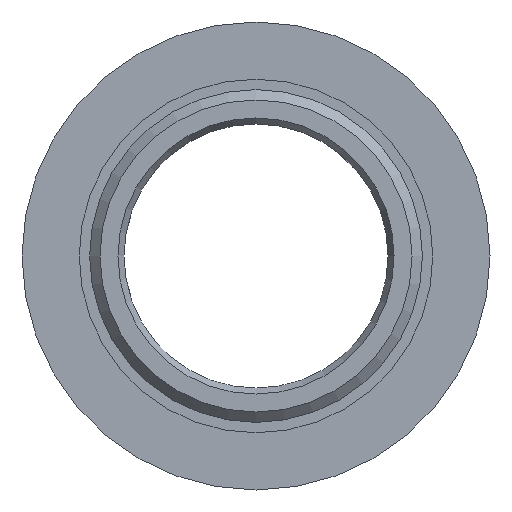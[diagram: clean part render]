
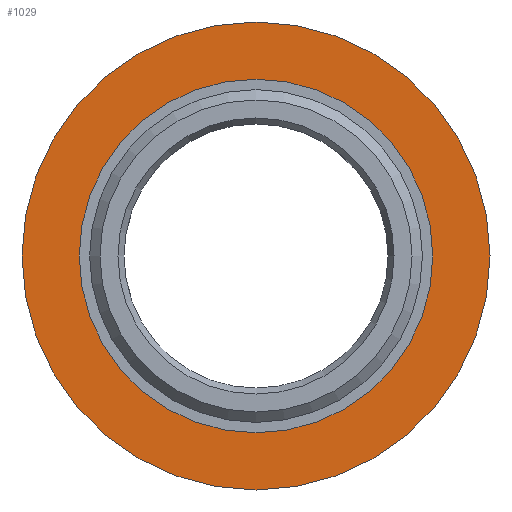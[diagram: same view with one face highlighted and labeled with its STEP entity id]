
A CAD part, left-side view. The second image highlights one B-rep face of the part: STEP entity #1029.
In plain terms, the highlighted planar face has unit normal (-1, 0, 0).
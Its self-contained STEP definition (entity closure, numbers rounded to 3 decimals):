
#34 = AXIS2_PLACEMENT_3D ( 'NONE', #224, #225, #226 ) ;
#59 = AXIS2_PLACEMENT_3D ( 'NONE', #948, #949, #950 ) ;
#80 = EDGE_CURVE ( 'NONE', #1435, #1435, #405, .T. ) ;
#148 = EDGE_CURVE ( 'NONE', #1452, #1452, #692, .T. ) ;
#224 = CARTESIAN_POINT ( 'NONE',  ( -0.5, 0., 0. ) ) ;
#225 = DIRECTION ( 'NONE',  ( 1., 0., 0. ) ) ;
#226 = DIRECTION ( 'NONE',  ( 0., 0., -1. ) ) ;
#405 = CIRCLE ( 'NONE', #59, 22.5 ) ;
#510 = CARTESIAN_POINT ( 'NONE',  ( -0.5, 0., -22.5 ) ) ;
#527 = CARTESIAN_POINT ( 'NONE',  ( -0.5, 0., -17. ) ) ;
#597 = ORIENTED_EDGE ( 'NONE', *, *, #80, .F. ) ;
#598 = ORIENTED_EDGE ( 'NONE', *, *, #148, .T. ) ;
#692 = CIRCLE ( 'NONE', #34, 17. ) ;
#741 = EDGE_LOOP ( 'NONE', ( #598 ) ) ;
#755 = EDGE_LOOP ( 'NONE', ( #597 ) ) ;
#843 = FACE_OUTER_BOUND ( 'NONE', #755, .T. ) ;
#851 = FACE_BOUND ( 'NONE', #741, .T. ) ;
#895 = CARTESIAN_POINT ( 'NONE',  ( -0.5, 0., 0. ) ) ;
#897 = PLANE ( 'NONE',  #1369 ) ;
#899 = DIRECTION ( 'NONE',  ( 1., 0., 0. ) ) ;
#900 = DIRECTION ( 'NONE',  ( 0., 0., -1. ) ) ;
#948 = CARTESIAN_POINT ( 'NONE',  ( -0.5, 0., 0. ) ) ;
#949 = DIRECTION ( 'NONE',  ( 1., 0., 0. ) ) ;
#950 = DIRECTION ( 'NONE',  ( 0., 0., -1. ) ) ;
#1029 = ADVANCED_FACE ( 'NONE', ( #843, #851 ), #897, .F. ) ;
#1369 = AXIS2_PLACEMENT_3D ( 'NONE', #895, #899, #900 ) ;
#1435 = VERTEX_POINT ( 'NONE', #510 ) ;
#1452 = VERTEX_POINT ( 'NONE', #527 ) ;
